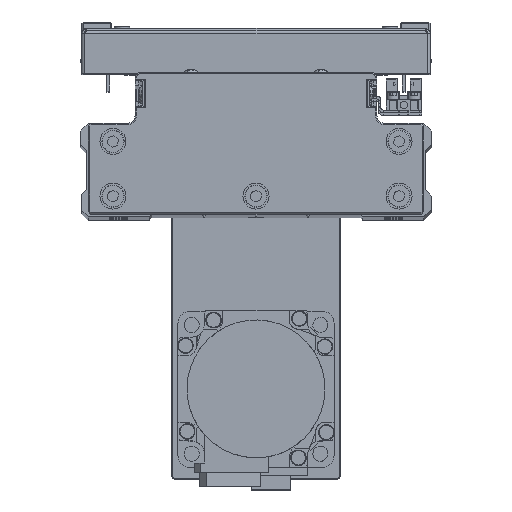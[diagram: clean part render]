
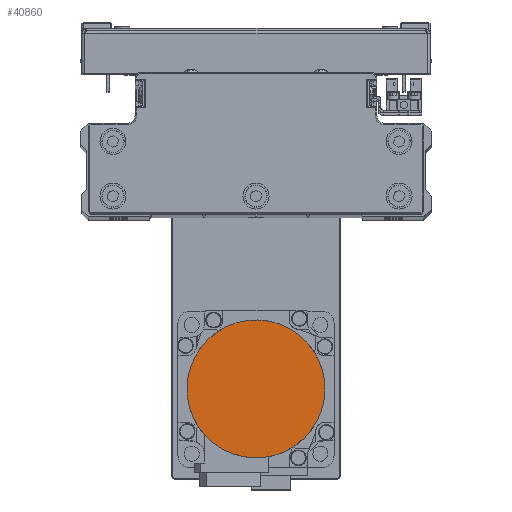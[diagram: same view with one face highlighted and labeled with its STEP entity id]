
A CAD part, top view. The second image highlights one B-rep face of the part: STEP entity #40860.
In plain terms, the highlighted planar face has unit normal (0, 0, 1) as drawn and (0, 0, -1) by its records, which use the part's own axes.
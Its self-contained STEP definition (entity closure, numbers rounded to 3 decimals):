
#205 = VERTEX_POINT ( 'NONE', #37392 ) ;
#1688 = DIRECTION ( 'NONE',  ( 0., 0., 1. ) ) ;
#1914 = CARTESIAN_POINT ( 'NONE',  ( -22.998, -13.28, -109.7 ) ) ;
#2144 = CARTESIAN_POINT ( 'NONE',  ( 6.871, -25.652, -109.7 ) ) ;
#2357 = CARTESIAN_POINT ( 'NONE',  ( 26.5, -1.734, -109.7 ) ) ;
#2690 = CARTESIAN_POINT ( 'NONE',  ( 23.819, 11.744, -109.7 ) ) ;
#2923 = CARTESIAN_POINT ( 'NONE',  ( -3.469, 26.329, -109.7 ) ) ;
#3138 = CARTESIAN_POINT ( 'NONE',  ( -26.329, 3.469, -109.7 ) ) ;
#5023 = FACE_OUTER_BOUND ( 'NONE', #19821, .T. ) ;
#5244 = CARTESIAN_POINT ( 'NONE',  ( -25.652, -6.871, -109.7 ) ) ;
#5463 = CARTESIAN_POINT ( 'NONE',  ( -1.734, -26.5, -109.7 ) ) ;
#5476 = ORIENTED_EDGE ( 'NONE', *, *, #31263, .F. ) ;
#5689 = CARTESIAN_POINT ( 'NONE',  ( 25.147, -8.539, -109.7 ) ) ;
#6023 = CARTESIAN_POINT ( 'NONE',  ( 26.329, 3.469, -109.7 ) ) ;
#6249 = CARTESIAN_POINT ( 'NONE',  ( 3.469, 26.329, -109.7 ) ) ;
#6250 = B_SPLINE_CURVE_WITH_KNOTS ( 'NONE', 3,
 ( #22937, #36521, #6023, #19592, #33174, #2690, #16259, #29844, #43427, #12925, #26504, #40082, #9585, #23161, #36747, #6249, #19815, #33405, #2923, #16484, #30068, #43646, #13138, #26725, #40302, #9803, #23389, #36980, #6485, #20040, #33627, #3138, #16700, #30282 ),
 .UNSPECIFIED., .F., .F.,
 ( 4, 2, 2, 2, 2, 2, 2, 2, 2, 2, 2, 2, 2, 2, 2, 2, 4 ),
 ( 0., 0.062, 0.125, 0.187, 0.25, 0.312, 0.375, 0.437, 0.5, 0.562, 0.625, 0.687, 0.75, 0.813, 0.875, 0.938, 1. ),
 .UNSPECIFIED. ) ;
#6485 = CARTESIAN_POINT ( 'NONE',  ( -23.819, 11.744, -109.7 ) ) ;
#7411 = EDGE_CURVE ( 'NONE', #16130, #205, #6250, .T. ) ;
#8601 = CARTESIAN_POINT ( 'NONE',  ( -26.5, 0., -109.7 ) ) ;
#8811 = CARTESIAN_POINT ( 'NONE',  ( -8.539, -25.147, -109.7 ) ) ;
#9026 = CARTESIAN_POINT ( 'NONE',  ( 21.07, -16.165, -109.7 ) ) ;
#9585 = CARTESIAN_POINT ( 'NONE',  ( 11.744, 23.819, -109.7 ) ) ;
#9803 = CARTESIAN_POINT ( 'NONE',  ( -19.965, 17.512, -109.7 ) ) ;
#12151 = CARTESIAN_POINT ( 'NONE',  ( -16.165, -21.07, -109.7 ) ) ;
#12362 = CARTESIAN_POINT ( 'NONE',  ( 16.165, -21.07, -109.7 ) ) ;
#12925 = CARTESIAN_POINT ( 'NONE',  ( 17.512, 19.965, -109.7 ) ) ;
#13138 = CARTESIAN_POINT ( 'NONE',  ( -13.28, 22.998, -109.7 ) ) ;
#14909 = ORIENTED_EDGE ( 'NONE', *, *, #7411, .F. ) ;
#15253 = DIRECTION ( 'NONE',  ( 1., 0., 0. ) ) ;
#15490 = CARTESIAN_POINT ( 'NONE',  ( -21.07, -16.165, -109.7 ) ) ;
#15710 = CARTESIAN_POINT ( 'NONE',  ( 8.539, -25.147, -109.7 ) ) ;
#15913 = CARTESIAN_POINT ( 'NONE',  ( 26.5, 0., -109.7 ) ) ;
#16130 = VERTEX_POINT ( 'NONE', #23727 ) ;
#16259 = CARTESIAN_POINT ( 'NONE',  ( 22.998, 13.28, -109.7 ) ) ;
#16484 = CARTESIAN_POINT ( 'NONE',  ( -6.871, 25.652, -109.7 ) ) ;
#16700 = CARTESIAN_POINT ( 'NONE',  ( -26.5, 1.734, -109.7 ) ) ;
#18595 = PLANE ( 'NONE',  #32209 ) ;
#18821 = CARTESIAN_POINT ( 'NONE',  ( -25.147, -8.539, -109.7 ) ) ;
#19035 = CARTESIAN_POINT ( 'NONE',  ( 1.734, -26.5, -109.7 ) ) ;
#19262 = CARTESIAN_POINT ( 'NONE',  ( 25.652, -6.871, -109.7 ) ) ;
#19592 = CARTESIAN_POINT ( 'NONE',  ( 25.652, 6.871, -109.7 ) ) ;
#19815 = CARTESIAN_POINT ( 'NONE',  ( 1.734, 26.5, -109.7 ) ) ;
#19821 = EDGE_LOOP ( 'NONE', ( #14909, #5476 ) ) ;
#20040 = CARTESIAN_POINT ( 'NONE',  ( -25.147, 8.539, -109.7 ) ) ;
#22168 = CARTESIAN_POINT ( 'NONE',  ( -26.5, -1.734, -109.7 ) ) ;
#22382 = CARTESIAN_POINT ( 'NONE',  ( -6.871, -25.652, -109.7 ) ) ;
#22600 = CARTESIAN_POINT ( 'NONE',  ( 22.998, -13.28, -109.7 ) ) ;
#22937 = CARTESIAN_POINT ( 'NONE',  ( 26.5, 0., -109.7 ) ) ;
#23161 = CARTESIAN_POINT ( 'NONE',  ( 8.539, 25.147, -109.7 ) ) ;
#23389 = CARTESIAN_POINT ( 'NONE',  ( -21.07, 16.165, -109.7 ) ) ;
#23727 = CARTESIAN_POINT ( 'NONE',  ( 26.5, 0., -109.7 ) ) ;
#23802 = B_SPLINE_CURVE_WITH_KNOTS ( 'NONE', 3,
 ( #8601, #22168, #35755, #5244, #18821, #32406, #1914, #15490, #29062, #42652, #12151, #25728, #39308, #8811, #22382, #35966, #5463, #19035, #32625, #2144, #15710, #29279, #42860, #12362, #25940, #39519, #9026, #22600, #36185, #5689, #19262, #32845, #2357, #15913 ),
 .UNSPECIFIED., .F., .F.,
 ( 4, 2, 2, 2, 2, 2, 2, 2, 2, 2, 2, 2, 2, 2, 2, 2, 4 ),
 ( 0., 0.063, 0.125, 0.188, 0.25, 0.312, 0.375, 0.437, 0.5, 0.562, 0.625, 0.687, 0.75, 0.813, 0.875, 0.938, 1. ),
 .UNSPECIFIED. ) ;
#25728 = CARTESIAN_POINT ( 'NONE',  ( -13.28, -22.998, -109.7 ) ) ;
#25940 = CARTESIAN_POINT ( 'NONE',  ( 17.512, -19.965, -109.7 ) ) ;
#26504 = CARTESIAN_POINT ( 'NONE',  ( 16.165, 21.07, -109.7 ) ) ;
#26725 = CARTESIAN_POINT ( 'NONE',  ( -16.165, 21.07, -109.7 ) ) ;
#29062 = CARTESIAN_POINT ( 'NONE',  ( -19.965, -17.512, -109.7 ) ) ;
#29279 = CARTESIAN_POINT ( 'NONE',  ( 11.744, -23.819, -109.7 ) ) ;
#29844 = CARTESIAN_POINT ( 'NONE',  ( 21.07, 16.165, -109.7 ) ) ;
#30068 = CARTESIAN_POINT ( 'NONE',  ( -8.539, 25.147, -109.7 ) ) ;
#30282 = CARTESIAN_POINT ( 'NONE',  ( -26.5, 0., -109.7 ) ) ;
#31263 = EDGE_CURVE ( 'NONE', #205, #16130, #23802, .T. ) ;
#32181 = CARTESIAN_POINT ( 'NONE',  ( 0., 0., -109.7 ) ) ;
#32209 = AXIS2_PLACEMENT_3D ( 'NONE', #32181, #1688, #15253 ) ;
#32406 = CARTESIAN_POINT ( 'NONE',  ( -23.819, -11.744, -109.7 ) ) ;
#32625 = CARTESIAN_POINT ( 'NONE',  ( 3.469, -26.329, -109.7 ) ) ;
#32845 = CARTESIAN_POINT ( 'NONE',  ( 26.329, -3.469, -109.7 ) ) ;
#33174 = CARTESIAN_POINT ( 'NONE',  ( 25.147, 8.539, -109.7 ) ) ;
#33405 = CARTESIAN_POINT ( 'NONE',  ( -1.734, 26.5, -109.7 ) ) ;
#33627 = CARTESIAN_POINT ( 'NONE',  ( -25.652, 6.871, -109.7 ) ) ;
#35755 = CARTESIAN_POINT ( 'NONE',  ( -26.329, -3.469, -109.7 ) ) ;
#35966 = CARTESIAN_POINT ( 'NONE',  ( -3.469, -26.329, -109.7 ) ) ;
#36185 = CARTESIAN_POINT ( 'NONE',  ( 23.819, -11.744, -109.7 ) ) ;
#36521 = CARTESIAN_POINT ( 'NONE',  ( 26.5, 1.734, -109.7 ) ) ;
#36747 = CARTESIAN_POINT ( 'NONE',  ( 6.871, 25.652, -109.7 ) ) ;
#36980 = CARTESIAN_POINT ( 'NONE',  ( -22.998, 13.28, -109.7 ) ) ;
#37392 = CARTESIAN_POINT ( 'NONE',  ( -26.5, 0., -109.7 ) ) ;
#39308 = CARTESIAN_POINT ( 'NONE',  ( -11.744, -23.819, -109.7 ) ) ;
#39519 = CARTESIAN_POINT ( 'NONE',  ( 19.965, -17.512, -109.7 ) ) ;
#40082 = CARTESIAN_POINT ( 'NONE',  ( 13.28, 22.998, -109.7 ) ) ;
#40302 = CARTESIAN_POINT ( 'NONE',  ( -17.512, 19.965, -109.7 ) ) ;
#40860 = ADVANCED_FACE ( 'NONE', ( #5023 ), #18595, .F. ) ;
#42652 = CARTESIAN_POINT ( 'NONE',  ( -17.512, -19.965, -109.7 ) ) ;
#42860 = CARTESIAN_POINT ( 'NONE',  ( 13.28, -22.998, -109.7 ) ) ;
#43427 = CARTESIAN_POINT ( 'NONE',  ( 19.965, 17.512, -109.7 ) ) ;
#43646 = CARTESIAN_POINT ( 'NONE',  ( -11.744, 23.819, -109.7 ) ) ;
